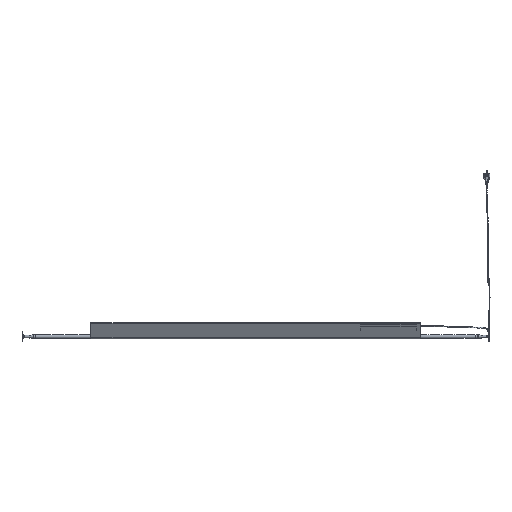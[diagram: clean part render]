
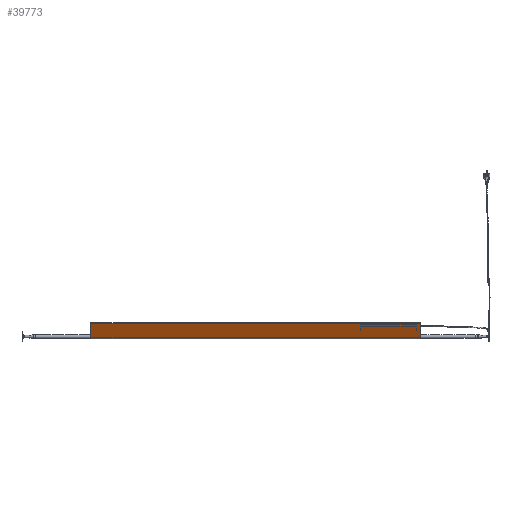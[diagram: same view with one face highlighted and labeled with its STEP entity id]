
A CAD part, left-side view. The second image highlights one B-rep face of the part: STEP entity #39773.
In plain terms, the highlighted planar face has unit normal (-0.862, 0, -0.507).
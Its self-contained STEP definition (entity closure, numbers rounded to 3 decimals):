
#580 = CARTESIAN_POINT ( 'NONE',  ( -11.632, 1015., -6.852 ) ) ;
#1659 = ORIENTED_EDGE ( 'NONE', *, *, #18812, .F. ) ;
#3001 = VERTEX_POINT ( 'NONE', #11355 ) ;
#3982 = DIRECTION ( 'NONE',  ( -0.508, 0., 0.862 ) ) ;
#4886 = VECTOR ( 'NONE', #26105, 1000. ) ;
#6172 = FACE_OUTER_BOUND ( 'NONE', #39657, .T. ) ;
#7140 = CARTESIAN_POINT ( 'NONE',  ( -11.632, 1015., -6.852 ) ) ;
#7234 = CARTESIAN_POINT ( 'NONE',  ( -11.632, -1015., -6.852 ) ) ;
#7795 = EDGE_CURVE ( 'NONE', #8886, #12914, #35830, .T. ) ;
#8886 = VERTEX_POINT ( 'NONE', #39650 ) ;
#9352 = PLANE ( 'NONE',  #21798 ) ;
#10037 = CARTESIAN_POINT ( 'NONE',  ( -63.956, -1015., 81.977 ) ) ;
#10711 = VECTOR ( 'NONE', #28203, 1000. ) ;
#11355 = CARTESIAN_POINT ( 'NONE',  ( -63.956, 1015., 81.977 ) ) ;
#11686 = ORIENTED_EDGE ( 'NONE', *, *, #20518, .T. ) ;
#12914 = VERTEX_POINT ( 'NONE', #7234 ) ;
#13483 = LINE ( 'NONE', #7140, #35542 ) ;
#18068 = LINE ( 'NONE', #18278, #10711 ) ;
#18191 = EDGE_CURVE ( 'NONE', #8886, #3001, #13483, .T. ) ;
#18278 = CARTESIAN_POINT ( 'NONE',  ( -11.632, -1015., -6.852 ) ) ;
#18812 = EDGE_CURVE ( 'NONE', #3001, #26461, #24357, .T. ) ;
#18847 = DIRECTION ( 'NONE',  ( 0.508, 0., -0.862 ) ) ;
#20518 = EDGE_CURVE ( 'NONE', #12914, #26461, #18068, .T. ) ;
#21798 = AXIS2_PLACEMENT_3D ( 'NONE', #35314, #35114, #18847 ) ;
#24357 = LINE ( 'NONE', #27084, #32195 ) ;
#26105 = DIRECTION ( 'NONE',  ( 0., -1., 0. ) ) ;
#26461 = VERTEX_POINT ( 'NONE', #10037 ) ;
#27084 = CARTESIAN_POINT ( 'NONE',  ( -63.956, 1015., 81.977 ) ) ;
#28203 = DIRECTION ( 'NONE',  ( -0.508, 0., 0.862 ) ) ;
#32195 = VECTOR ( 'NONE', #37248, 1000. ) ;
#35114 = DIRECTION ( 'NONE',  ( 0.862, 0., 0.508 ) ) ;
#35314 = CARTESIAN_POINT ( 'NONE',  ( -11.632, 1015., -6.852 ) ) ;
#35542 = VECTOR ( 'NONE', #3982, 1000. ) ;
#35830 = LINE ( 'NONE', #580, #4886 ) ;
#37248 = DIRECTION ( 'NONE',  ( 0., -1., 0. ) ) ;
#38010 = ORIENTED_EDGE ( 'NONE', *, *, #18191, .F. ) ;
#39650 = CARTESIAN_POINT ( 'NONE',  ( -11.632, 1015., -6.852 ) ) ;
#39657 = EDGE_LOOP ( 'NONE', ( #11686, #1659, #38010, #41409 ) ) ;
#39773 = ADVANCED_FACE ( 'NONE', ( #6172 ), #9352, .F. ) ;
#41409 = ORIENTED_EDGE ( 'NONE', *, *, #7795, .T. ) ;
